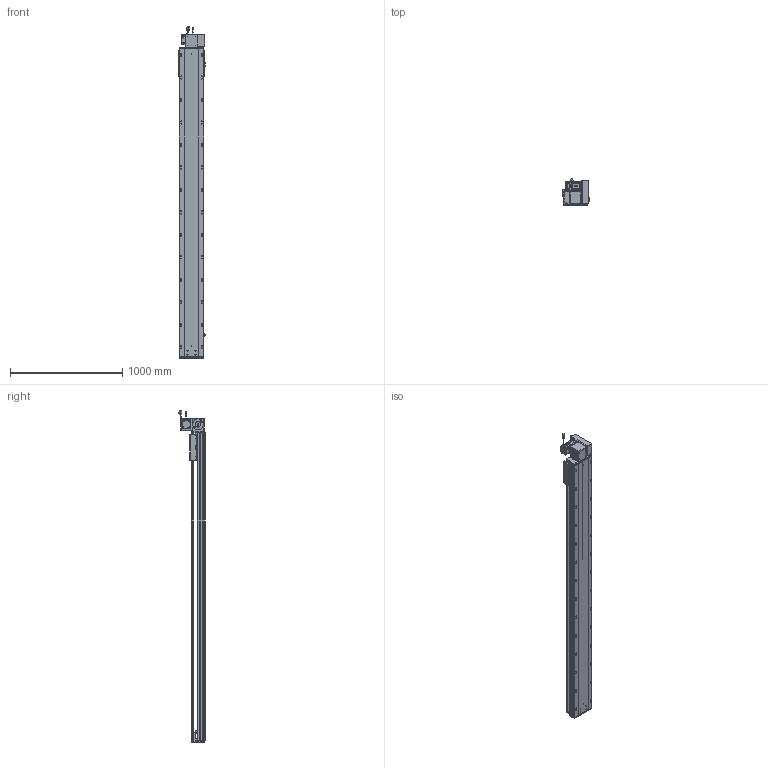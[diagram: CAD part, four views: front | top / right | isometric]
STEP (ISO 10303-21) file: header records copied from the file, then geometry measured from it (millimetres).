
FILE_DESCRIPTION (( 'STEP AP203' ), '1' );
FILE_NAME ('RY220-T-300-UR.SLDASM_2400.step', '2022-07-25T08:45:17', ( '' ), ( '' ), 'SwSTEP 2.0', 'SolidWorks 2016', '' );
FILE_SCHEMA (( 'CONFIG_CONTROL_DESIGN' ));
Length unit declared in the file: millimetre
Products named in the file (14): RY220翋肮祭謫裔啣; RY220-俋离672覜茼んえ; RY220翋肮祭謫釱; 覜茼ん672; 怢湛750W_ECMA-CX0807ES; RY220-T-蛌殏萇儂假蚾啣(750W); 滅袉蝶18-15; RY220-T-300-UR.SLDASM_2400; RY220-同步轮副支撑座6304×2; RY220圉猾敕々湍臏賑輸; RY220-T-300-奻裔啣_2400; 110A-T-肮祭謫釱傷裔; RY220-T菁釱-300_2400; RY220-T-湍謫欶(鍼踢)
Assembly tree (18 placements, depth 2):
  RY220-T-300-UR.SLDASM_2400
    RY220-T菁釱-300_2400
    RY220翋肮祭謫釱
    覜茼ん672  x3
    RY220圉猾敕々湍臏賑輸
    RY220-T-300-奻裔啣_2400
    RY220-俋离672覜茼んえ
    滅袉蝶18-15  x3
    RY220翋肮祭謫裔啣  x2
    110A-T-肮祭謫釱傷裔
    怢湛750W_ECMA-CX0807ES
    RY220-T-湍謫欶(鍼踢)
    RY220-T-蛌殏萇儂假蚾啣(750W)
    RY220-同步轮副支撑座6304×2
Bounding box: 238.7 x 231.74 x 2953.27 mm (x, y, z)
Volume: 21322359.9 mm3; surface area: 6533098 mm2
Topology: 19 solids, 19 shells, 2906 faces, 8031 edges, 5044 vertices
Faces by surface type: cylinder 1414, plane 1069, cone 341, bspline 56, sphere 16, torus 10
Entity records: 96787 total; most frequent: CARTESIAN_POINT 27357, ORIENTED_EDGE 14362, DIRECTION 13800, EDGE_CURVE 7181, AXIS2_PLACEMENT_3D 4956, VERTEX_POINT 4668, LINE 3888, VECTOR 3888
